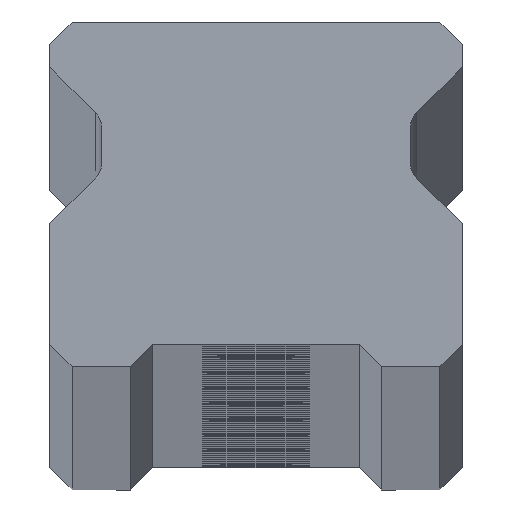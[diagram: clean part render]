
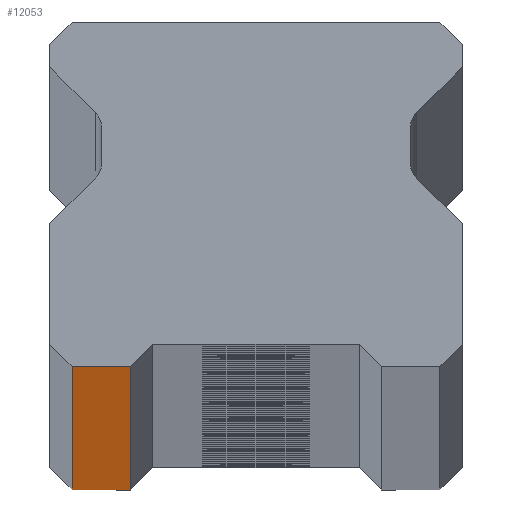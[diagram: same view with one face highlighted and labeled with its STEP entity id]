
A CAD part, top view. The second image highlights one B-rep face of the part: STEP entity #12053.
In plain terms, the highlighted planar face has unit normal (0, -1, 0).
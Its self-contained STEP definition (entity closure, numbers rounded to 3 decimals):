
#149 = PLANE ( 'NONE',  #3878 ) ;
#325 = CARTESIAN_POINT ( 'NONE',  ( -7., 0., 1970. ) ) ;
#372 = DIRECTION ( 'NONE',  ( -1., 0., 0. ) ) ;
#1141 = LINE ( 'NONE', #7611, #9433 ) ;
#1460 = VECTOR ( 'NONE', #7695, 1000. ) ;
#2825 = VERTEX_POINT ( 'NONE', #325 ) ;
#3356 = EDGE_LOOP ( 'NONE', ( #6765, #4979, #4691, #8661 ) ) ;
#3498 = LINE ( 'NONE', #7776, #1460 ) ;
#3878 = AXIS2_PLACEMENT_3D ( 'NONE', #10282, #8303, #372 ) ;
#4622 = CARTESIAN_POINT ( 'NONE',  ( -10.25, 0., 1970. ) ) ;
#4691 = ORIENTED_EDGE ( 'NONE', *, *, #6675, .F. ) ;
#4979 = ORIENTED_EDGE ( 'NONE', *, *, #11347, .T. ) ;
#5504 = DIRECTION ( 'NONE',  ( 1., 0., 0. ) ) ;
#5997 = VERTEX_POINT ( 'NONE', #4622 ) ;
#6068 = CARTESIAN_POINT ( 'NONE',  ( -10.25, 0., 1970. ) ) ;
#6103 = FACE_OUTER_BOUND ( 'NONE', #3356, .T. ) ;
#6615 = VECTOR ( 'NONE', #7029, 1000. ) ;
#6675 = EDGE_CURVE ( 'NONE', #5997, #2825, #1141, .T. ) ;
#6765 = ORIENTED_EDGE ( 'NONE', *, *, #6776, .T. ) ;
#6776 = EDGE_CURVE ( 'NONE', #7271, #10099, #3498, .T. ) ;
#7017 = DIRECTION ( 'NONE',  ( 0., 0., 1. ) ) ;
#7029 = DIRECTION ( 'NONE',  ( 0., 0., -1. ) ) ;
#7271 = VERTEX_POINT ( 'NONE', #10626 ) ;
#7611 = CARTESIAN_POINT ( 'NONE',  ( 11.5, 0., 1970. ) ) ;
#7695 = DIRECTION ( 'NONE',  ( 1., 0., 0. ) ) ;
#7776 = CARTESIAN_POINT ( 'NONE',  ( 11.5, 0., -1970. ) ) ;
#8303 = DIRECTION ( 'NONE',  ( 0., 1., 0. ) ) ;
#8463 = LINE ( 'NONE', #12006, #9374 ) ;
#8661 = ORIENTED_EDGE ( 'NONE', *, *, #10621, .T. ) ;
#8996 = CARTESIAN_POINT ( 'NONE',  ( -7., 0., -1970. ) ) ;
#9374 = VECTOR ( 'NONE', #7017, 1000. ) ;
#9433 = VECTOR ( 'NONE', #5504, 1000. ) ;
#10099 = VERTEX_POINT ( 'NONE', #8996 ) ;
#10282 = CARTESIAN_POINT ( 'NONE',  ( 11.5, 0., 1970. ) ) ;
#10621 = EDGE_CURVE ( 'NONE', #5997, #7271, #10826, .T. ) ;
#10626 = CARTESIAN_POINT ( 'NONE',  ( -10.25, 0., -1970. ) ) ;
#10826 = LINE ( 'NONE', #6068, #6615 ) ;
#11347 = EDGE_CURVE ( 'NONE', #10099, #2825, #8463, .T. ) ;
#12006 = CARTESIAN_POINT ( 'NONE',  ( -7., 0., -1970. ) ) ;
#12053 = ADVANCED_FACE ( 'NONE', ( #6103 ), #149, .F. ) ;
